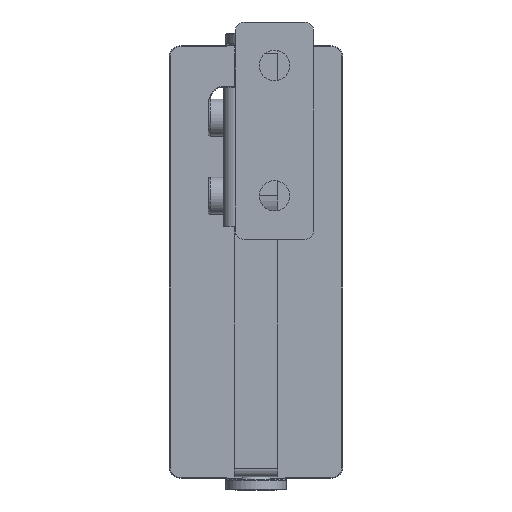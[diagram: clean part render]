
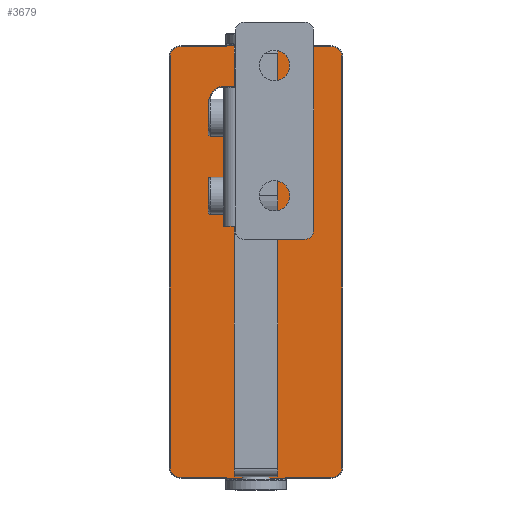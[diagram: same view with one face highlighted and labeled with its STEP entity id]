
A CAD part, front view. The second image highlights one B-rep face of the part: STEP entity #3679.
In plain terms, the highlighted planar face has unit normal (0, -1, 0).
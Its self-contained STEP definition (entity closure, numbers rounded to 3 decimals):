
#96=FACE_BOUND('',#519,.T.);
#97=FACE_BOUND('',#520,.T.);
#129=PLANE('',#4058);
#286=FACE_OUTER_BOUND('',#518,.T.);
#518=EDGE_LOOP('',(#2557,#2558,#2559,#2560,#2561,#2562,#2563,#2564,#2565,
#2566,#2567,#2568,#2569,#2570,#2571,#2572,#2573,#2574,#2575,#2576,#2577,
#2578,#2579,#2580));
#519=EDGE_LOOP('',(#2581,#2582,#2583,#2584));
#520=EDGE_LOOP('',(#2585,#2586,#2587,#2588));
#755=LINE('',#5768,#1041);
#758=LINE('',#5785,#1044);
#760=LINE('',#5798,#1046);
#764=LINE('',#5924,#1050);
#776=LINE('',#5967,#1062);
#778=LINE('',#5976,#1064);
#783=LINE('',#5989,#1069);
#784=LINE('',#5991,#1070);
#785=LINE('',#5993,#1071);
#786=LINE('',#5995,#1072);
#787=LINE('',#5999,#1073);
#788=LINE('',#6003,#1074);
#789=LINE('',#6007,#1075);
#790=LINE('',#6011,#1076);
#791=LINE('',#6013,#1077);
#792=LINE('',#6015,#1078);
#793=LINE('',#6017,#1079);
#794=LINE('',#6018,#1080);
#795=LINE('',#6023,#1081);
#796=LINE('',#6026,#1082);
#1041=VECTOR('',#4505,10.);
#1044=VECTOR('',#4524,10.);
#1046=VECTOR('',#4538,10.);
#1050=VECTOR('',#4554,10.);
#1062=VECTOR('',#4602,10.);
#1064=VECTOR('',#4614,10.);
#1069=VECTOR('',#4627,10.);
#1070=VECTOR('',#4628,10.);
#1071=VECTOR('',#4629,10.);
#1072=VECTOR('',#4630,10.);
#1073=VECTOR('',#4633,10.);
#1074=VECTOR('',#4636,10.);
#1075=VECTOR('',#4639,10.);
#1076=VECTOR('',#4642,10.);
#1077=VECTOR('',#4643,10.);
#1078=VECTOR('',#4644,10.);
#1079=VECTOR('',#4645,10.);
#1080=VECTOR('',#4646,10.);
#1081=VECTOR('',#4649,10.);
#1082=VECTOR('',#4652,10.);
#1332=CIRCLE('',#4017,2.3);
#1336=CIRCLE('',#4023,2.3);
#1339=CIRCLE('',#4027,0.2);
#1340=CIRCLE('',#4028,0.2);
#1348=CIRCLE('',#4045,3.2);
#1354=CIRCLE('',#4053,3.2);
#1356=CIRCLE('',#4059,0.2);
#1357=CIRCLE('',#4060,2.3);
#1358=CIRCLE('',#4061,2.3);
#1359=CIRCLE('',#4062,0.2);
#1360=CIRCLE('',#4063,3.2);
#1361=CIRCLE('',#4064,3.2);
#1578=VERTEX_POINT('',#5765);
#1579=VERTEX_POINT('',#5767);
#1582=VERTEX_POINT('',#5775);
#1584=VERTEX_POINT('',#5781);
#1586=VERTEX_POINT('',#5787);
#1590=VERTEX_POINT('',#5797);
#1591=VERTEX_POINT('',#5809);
#1592=VERTEX_POINT('',#5850);
#1598=VERTEX_POINT('',#5922);
#1607=VERTEX_POINT('',#5955);
#1608=VERTEX_POINT('',#5957);
#1610=VERTEX_POINT('',#5963);
#1612=VERTEX_POINT('',#5969);
#1617=VERTEX_POINT('',#5988);
#1618=VERTEX_POINT('',#5990);
#1619=VERTEX_POINT('',#5992);
#1620=VERTEX_POINT('',#5994);
#1621=VERTEX_POINT('',#5996);
#1622=VERTEX_POINT('',#5998);
#1623=VERTEX_POINT('',#6000);
#1624=VERTEX_POINT('',#6002);
#1625=VERTEX_POINT('',#6004);
#1626=VERTEX_POINT('',#6006);
#1627=VERTEX_POINT('',#6008);
#1628=VERTEX_POINT('',#6010);
#1629=VERTEX_POINT('',#6012);
#1630=VERTEX_POINT('',#6014);
#1631=VERTEX_POINT('',#6016);
#1632=VERTEX_POINT('',#6019);
#1633=VERTEX_POINT('',#6020);
#1634=VERTEX_POINT('',#6022);
#1635=VERTEX_POINT('',#6024);
#1917=EDGE_CURVE('',#1578,#1579,#755,.T.);
#1923=EDGE_CURVE('',#1579,#1582,#1332,.T.);
#1926=EDGE_CURVE('',#1582,#1584,#758,.T.);
#1929=EDGE_CURVE('',#1584,#1586,#1336,.T.);
#1932=EDGE_CURVE('',#1586,#1590,#760,.T.);
#1935=EDGE_CURVE('',#1591,#1578,#1339,.T.);
#1937=EDGE_CURVE('',#1590,#1592,#1340,.T.);
#1944=EDGE_CURVE('',#1591,#1598,#764,.T.);
#1960=EDGE_CURVE('',#1607,#1608,#1348,.T.);
#1965=EDGE_CURVE('',#1608,#1610,#776,.T.);
#1968=EDGE_CURVE('',#1610,#1612,#1354,.T.);
#1970=EDGE_CURVE('',#1612,#1607,#778,.T.);
#1976=EDGE_CURVE('',#1617,#1598,#783,.T.);
#1977=EDGE_CURVE('',#1618,#1617,#784,.T.);
#1978=EDGE_CURVE('',#1619,#1618,#785,.T.);
#1979=EDGE_CURVE('',#1619,#1620,#786,.T.);
#1980=EDGE_CURVE('',#1621,#1620,#1356,.T.);
#1981=EDGE_CURVE('',#1622,#1621,#787,.T.);
#1982=EDGE_CURVE('',#1623,#1622,#1357,.T.);
#1983=EDGE_CURVE('',#1624,#1623,#788,.T.);
#1984=EDGE_CURVE('',#1625,#1624,#1358,.T.);
#1985=EDGE_CURVE('',#1626,#1625,#789,.T.);
#1986=EDGE_CURVE('',#1627,#1626,#1359,.T.);
#1987=EDGE_CURVE('',#1627,#1628,#790,.T.);
#1988=EDGE_CURVE('',#1629,#1628,#791,.T.);
#1989=EDGE_CURVE('',#1630,#1629,#792,.T.);
#1990=EDGE_CURVE('',#1631,#1630,#793,.T.);
#1991=EDGE_CURVE('',#1631,#1592,#794,.T.);
#1992=EDGE_CURVE('',#1632,#1633,#1360,.T.);
#1993=EDGE_CURVE('',#1634,#1632,#795,.T.);
#1994=EDGE_CURVE('',#1635,#1634,#1361,.T.);
#1995=EDGE_CURVE('',#1633,#1635,#796,.T.);
#2557=ORIENTED_EDGE('',*,*,#1935,.F.);
#2558=ORIENTED_EDGE('',*,*,#1944,.T.);
#2559=ORIENTED_EDGE('',*,*,#1976,.F.);
#2560=ORIENTED_EDGE('',*,*,#1977,.F.);
#2561=ORIENTED_EDGE('',*,*,#1978,.F.);
#2562=ORIENTED_EDGE('',*,*,#1979,.T.);
#2563=ORIENTED_EDGE('',*,*,#1980,.F.);
#2564=ORIENTED_EDGE('',*,*,#1981,.F.);
#2565=ORIENTED_EDGE('',*,*,#1982,.F.);
#2566=ORIENTED_EDGE('',*,*,#1983,.F.);
#2567=ORIENTED_EDGE('',*,*,#1984,.F.);
#2568=ORIENTED_EDGE('',*,*,#1985,.F.);
#2569=ORIENTED_EDGE('',*,*,#1986,.F.);
#2570=ORIENTED_EDGE('',*,*,#1987,.T.);
#2571=ORIENTED_EDGE('',*,*,#1988,.F.);
#2572=ORIENTED_EDGE('',*,*,#1989,.F.);
#2573=ORIENTED_EDGE('',*,*,#1990,.F.);
#2574=ORIENTED_EDGE('',*,*,#1991,.T.);
#2575=ORIENTED_EDGE('',*,*,#1937,.F.);
#2576=ORIENTED_EDGE('',*,*,#1932,.F.);
#2577=ORIENTED_EDGE('',*,*,#1929,.F.);
#2578=ORIENTED_EDGE('',*,*,#1926,.F.);
#2579=ORIENTED_EDGE('',*,*,#1923,.F.);
#2580=ORIENTED_EDGE('',*,*,#1917,.F.);
#2581=ORIENTED_EDGE('',*,*,#1992,.F.);
#2582=ORIENTED_EDGE('',*,*,#1993,.F.);
#2583=ORIENTED_EDGE('',*,*,#1994,.F.);
#2584=ORIENTED_EDGE('',*,*,#1995,.F.);
#2585=ORIENTED_EDGE('',*,*,#1960,.F.);
#2586=ORIENTED_EDGE('',*,*,#1970,.F.);
#2587=ORIENTED_EDGE('',*,*,#1968,.F.);
#2588=ORIENTED_EDGE('',*,*,#1965,.F.);
#3679=ADVANCED_FACE('',(#286,#96,#97),#129,.F.);
#4017=AXIS2_PLACEMENT_3D('',#5779,#4517,#4518);
#4023=AXIS2_PLACEMENT_3D('',#5791,#4531,#4532);
#4027=AXIS2_PLACEMENT_3D('',#5840,#4541,#4542);
#4028=AXIS2_PLACEMENT_3D('',#5881,#4543,#4544);
#4045=AXIS2_PLACEMENT_3D('',#5958,#4591,#4592);
#4053=AXIS2_PLACEMENT_3D('',#5973,#4609,#4610);
#4058=AXIS2_PLACEMENT_3D('',#5987,#4625,#4626);
#4059=AXIS2_PLACEMENT_3D('',#5997,#4631,#4632);
#4060=AXIS2_PLACEMENT_3D('',#6001,#4634,#4635);
#4061=AXIS2_PLACEMENT_3D('',#6005,#4637,#4638);
#4062=AXIS2_PLACEMENT_3D('',#6009,#4640,#4641);
#4063=AXIS2_PLACEMENT_3D('',#6021,#4647,#4648);
#4064=AXIS2_PLACEMENT_3D('',#6025,#4650,#4651);
#4505=DIRECTION('',(1.,0.,0.));
#4517=DIRECTION('center_axis',(0.,1.,0.));
#4518=DIRECTION('ref_axis',(0.707,0.,0.707));
#4524=DIRECTION('',(0.,0.,-1.));
#4531=DIRECTION('center_axis',(0.,1.,0.));
#4532=DIRECTION('ref_axis',(0.707,0.,-0.707));
#4538=DIRECTION('',(-1.,0.,0.));
#4541=DIRECTION('center_axis',(0.,-1.,0.));
#4542=DIRECTION('ref_axis',(0.,0.,1.));
#4543=DIRECTION('center_axis',(0.,-1.,0.));
#4544=DIRECTION('ref_axis',(0.,0.,-1.));
#4554=DIRECTION('',(-1.,0.,0.));
#4591=DIRECTION('center_axis',(0.,-1.,0.));
#4592=DIRECTION('ref_axis',(1.,0.,0.));
#4602=DIRECTION('',(-1.,0.,0.));
#4609=DIRECTION('center_axis',(0.,-1.,0.));
#4610=DIRECTION('ref_axis',(-1.,0.,0.));
#4614=DIRECTION('',(1.,0.,0.));
#4625=DIRECTION('center_axis',(0.,1.,0.));
#4626=DIRECTION('ref_axis',(0.,0.,1.));
#4627=DIRECTION('',(0.,0.,-1.));
#4628=DIRECTION('',(1.,0.,0.));
#4629=DIRECTION('',(0.,0.,1.));
#4630=DIRECTION('',(-1.,0.,0.));
#4631=DIRECTION('center_axis',(0.,-1.,0.));
#4632=DIRECTION('ref_axis',(0.,0.,1.));
#4633=DIRECTION('',(1.,0.,0.));
#4634=DIRECTION('center_axis',(0.,1.,0.));
#4635=DIRECTION('ref_axis',(-0.707,0.,0.707));
#4636=DIRECTION('',(0.,0.,1.));
#4637=DIRECTION('center_axis',(0.,1.,0.));
#4638=DIRECTION('ref_axis',(-0.707,0.,-0.707));
#4639=DIRECTION('',(-1.,0.,0.));
#4640=DIRECTION('center_axis',(0.,-1.,0.));
#4641=DIRECTION('ref_axis',(0.,0.,-1.));
#4642=DIRECTION('',(1.,0.,0.));
#4643=DIRECTION('',(0.,0.,1.));
#4644=DIRECTION('',(-1.,0.,0.));
#4645=DIRECTION('',(0.,0.,-1.));
#4646=DIRECTION('',(1.,0.,0.));
#4647=DIRECTION('center_axis',(0.,-1.,0.));
#4648=DIRECTION('ref_axis',(0.,0.,1.));
#4649=DIRECTION('',(0.,0.,1.));
#4650=DIRECTION('center_axis',(0.,-1.,0.));
#4651=DIRECTION('ref_axis',(0.,0.,-1.));
#4652=DIRECTION('',(0.,0.,-1.));
#5765=CARTESIAN_POINT('',(7.01,0.,49.55));
#5767=CARTESIAN_POINT('',(17.5,0.,49.55));
#5768=CARTESIAN_POINT('',(-8.75,0.,49.55));
#5775=CARTESIAN_POINT('',(19.8,0.,47.25));
#5779=CARTESIAN_POINT('Origin',(17.5,0.,47.25));
#5781=CARTESIAN_POINT('',(19.8,0.,-47.25));
#5785=CARTESIAN_POINT('',(19.8,0.,23.625));
#5787=CARTESIAN_POINT('',(17.5,0.,-49.55));
#5791=CARTESIAN_POINT('Origin',(17.5,0.,-47.25));
#5797=CARTESIAN_POINT('',(7.01,0.,-49.55));
#5798=CARTESIAN_POINT('',(8.75,0.,-49.55));
#5809=CARTESIAN_POINT('',(6.81,0.,49.74));
#5840=CARTESIAN_POINT('Origin',(7.01,0.,49.75));
#5850=CARTESIAN_POINT('',(6.81,0.,-49.74));
#5881=CARTESIAN_POINT('Origin',(7.01,0.,-49.75));
#5922=CARTESIAN_POINT('',(6.8,0.,49.74));
#5924=CARTESIAN_POINT('',(3.5,0.,49.74));
#5955=CARTESIAN_POINT('',(7.5,0.,34.05));
#5957=CARTESIAN_POINT('',(7.5,0.,40.45));
#5958=CARTESIAN_POINT('Origin',(7.5,0.,37.25));
#5963=CARTESIAN_POINT('',(-7.5,0.,40.45));
#5967=CARTESIAN_POINT('',(3.75,0.,40.45));
#5969=CARTESIAN_POINT('',(-7.5,0.,34.05));
#5973=CARTESIAN_POINT('Origin',(-7.5,0.,37.25));
#5976=CARTESIAN_POINT('',(-3.75,0.,34.05));
#5987=CARTESIAN_POINT('Origin',(0.,0.,0.));
#5988=CARTESIAN_POINT('',(6.8,0.,49.75));
#5989=CARTESIAN_POINT('',(6.8,0.,24.875));
#5990=CARTESIAN_POINT('',(-6.8,0.,49.75));
#5991=CARTESIAN_POINT('',(-17.5,0.,49.75));
#5992=CARTESIAN_POINT('',(-6.8,0.,49.74));
#5993=CARTESIAN_POINT('',(-6.8,0.,24.87));
#5994=CARTESIAN_POINT('',(-6.81,0.,49.74));
#5995=CARTESIAN_POINT('',(-3.505,0.,49.74));
#5996=CARTESIAN_POINT('',(-7.01,0.,49.55));
#5997=CARTESIAN_POINT('Origin',(-7.01,0.,49.75));
#5998=CARTESIAN_POINT('',(-17.5,0.,49.55));
#5999=CARTESIAN_POINT('',(-8.75,0.,49.55));
#6000=CARTESIAN_POINT('',(-19.8,0.,47.25));
#6001=CARTESIAN_POINT('Origin',(-17.5,0.,47.25));
#6002=CARTESIAN_POINT('',(-19.8,0.,-47.25));
#6003=CARTESIAN_POINT('',(-19.8,0.,-23.625));
#6004=CARTESIAN_POINT('',(-17.5,0.,-49.55));
#6005=CARTESIAN_POINT('Origin',(-17.5,0.,-47.25));
#6006=CARTESIAN_POINT('',(-7.01,0.,-49.55));
#6007=CARTESIAN_POINT('',(8.75,0.,-49.55));
#6008=CARTESIAN_POINT('',(-6.81,0.,-49.74));
#6009=CARTESIAN_POINT('Origin',(-7.01,0.,-49.75));
#6010=CARTESIAN_POINT('',(-6.8,0.,-49.74));
#6011=CARTESIAN_POINT('',(-3.5,0.,-49.74));
#6012=CARTESIAN_POINT('',(-6.8,0.,-49.75));
#6013=CARTESIAN_POINT('',(-6.8,0.,-24.875));
#6014=CARTESIAN_POINT('',(6.8,0.,-49.75));
#6015=CARTESIAN_POINT('',(17.5,0.,-49.75));
#6016=CARTESIAN_POINT('',(6.8,0.,-49.74));
#6017=CARTESIAN_POINT('',(6.8,0.,-24.87));
#6018=CARTESIAN_POINT('',(3.505,0.,-49.74));
#6019=CARTESIAN_POINT('',(3.2,0.,-25.75));
#6020=CARTESIAN_POINT('',(-3.2,0.,-25.75));
#6021=CARTESIAN_POINT('Origin',(0.,0.,-25.75));
#6022=CARTESIAN_POINT('',(3.2,0.,-40.75));
#6023=CARTESIAN_POINT('',(3.2,0.,-20.375));
#6024=CARTESIAN_POINT('',(-3.2,0.,-40.75));
#6025=CARTESIAN_POINT('Origin',(0.,0.,-40.75));
#6026=CARTESIAN_POINT('',(-3.2,0.,-12.875));
